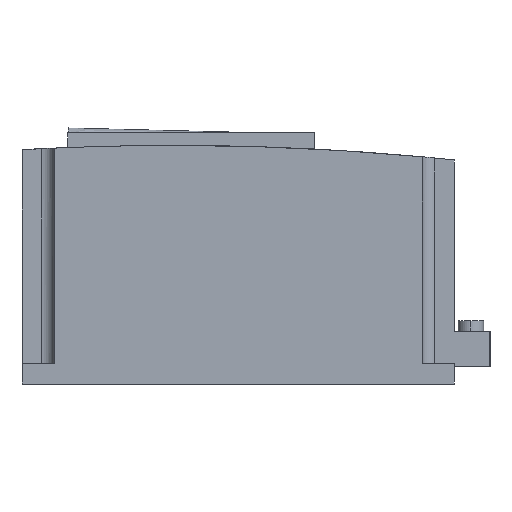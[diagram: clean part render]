
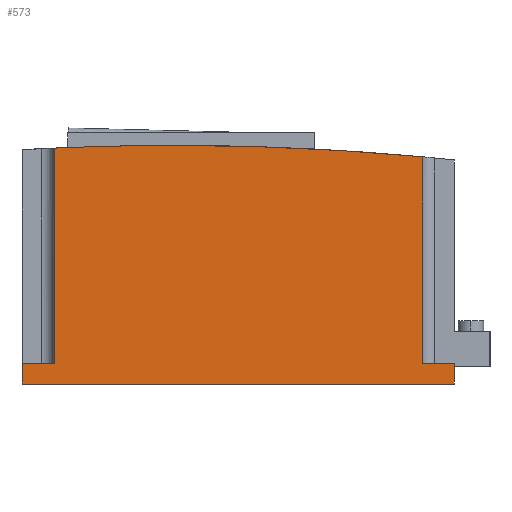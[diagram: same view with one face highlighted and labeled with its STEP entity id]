
A CAD part, left-side view. The second image highlights one B-rep face of the part: STEP entity #573.
In plain terms, the highlighted planar face has unit normal (-1, 0, 0).
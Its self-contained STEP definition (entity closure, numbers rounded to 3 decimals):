
#573=ADVANCED_FACE('',(#1078),#1079,.T.);
#1078=FACE_OUTER_BOUND('',#1412,.T.);
#1079=PLANE('',#1413);
#1412=EDGE_LOOP('',(#2035,#2036,#2037,#2038,#2039,#2040,#2041,#2042,#2043));
#1413=AXIS2_PLACEMENT_3D('',#2044,#2045,#2046);
#2035=ORIENTED_EDGE('',*,*,#2773,.T.);
#2036=ORIENTED_EDGE('',*,*,#2743,.T.);
#2037=ORIENTED_EDGE('',*,*,#2664,.T.);
#2038=ORIENTED_EDGE('',*,*,#2774,.F.);
#2039=ORIENTED_EDGE('',*,*,#2775,.T.);
#2040=ORIENTED_EDGE('',*,*,#2760,.F.);
#2041=ORIENTED_EDGE('',*,*,#2776,.F.);
#2042=ORIENTED_EDGE('',*,*,#2777,.T.);
#2043=ORIENTED_EDGE('',*,*,#2778,.T.);
#2044=CARTESIAN_POINT('',(-70.0,85.,3.0));
#2045=DIRECTION('',(-1.0,-0.0,0.0));
#2046=DIRECTION('',(0.0,-1.0,-0.0));
#2664=EDGE_CURVE('',#3104,#3122,#3124,.T.);
#2743=EDGE_CURVE('',#3256,#3104,#3257,.T.);
#2760=EDGE_CURVE('',#3284,#3286,#3287,.T.);
#2773=EDGE_CURVE('',#3307,#3256,#3308,.T.);
#2774=EDGE_CURVE('',#3309,#3122,#3310,.T.);
#2775=EDGE_CURVE('',#3309,#3286,#3311,.T.);
#2776=EDGE_CURVE('',#3312,#3284,#3313,.T.);
#2777=EDGE_CURVE('',#3312,#3314,#3315,.T.);
#2778=EDGE_CURVE('',#3314,#3307,#3316,.T.);
#3104=VERTEX_POINT('',#3437);
#3122=VERTEX_POINT('',#3476);
#3124=CIRCLE('',#3479,1057.107);
#3256=VERTEX_POINT('',#3700);
#3257=CIRCLE('',#3701,1057.107);
#3284=VERTEX_POINT('',#3756);
#3286=VERTEX_POINT('',#3759);
#3287=LINE('',#3760,#3761);
#3307=VERTEX_POINT('',#3806);
#3308=LINE('',#3807,#3808);
#3309=VERTEX_POINT('',#3809);
#3310=LINE('',#3810,#3811);
#3311=LINE('',#3812,#3813);
#3312=VERTEX_POINT('',#3814);
#3313=LINE('',#3815,#3816);
#3314=VERTEX_POINT('',#3817);
#3315=LINE('',#3818,#3819);
#3316=LINE('',#3820,#3821);
#3437=CARTESIAN_POINT('',(-70.,109.922,93.82));
#3476=CARTESIAN_POINT('',(-70.0,157.411,92.753));
#3479=AXIS2_PLACEMENT_3D('',#4040,#4041,#4042);
#3700=CARTESIAN_POINT('',(-70.0,12.589,89.33));
#3701=AXIS2_PLACEMENT_3D('',#4163,#4164,#4165);
#3756=CARTESIAN_POINT('',(-70.0,170.0,0.0));
#3759=CARTESIAN_POINT('',(-70.0,170.0,8.0));
#3760=CARTESIAN_POINT('',(-70.0,170.0,0.0));
#3761=VECTOR('',#4187,1.0);
#3806=CARTESIAN_POINT('',(-70.0,12.589,8.0));
#3807=CARTESIAN_POINT('',(-70.0,12.589,13.0));
#3808=VECTOR('',#4205,1.0);
#3809=CARTESIAN_POINT('',(-70.0,157.411,8.0));
#3810=CARTESIAN_POINT('',(-70.0,157.411,3.0));
#3811=VECTOR('',#4206,1.0);
#3812=CARTESIAN_POINT('',(-70.0,0.0,8.0));
#3813=VECTOR('',#4207,1.0);
#3814=CARTESIAN_POINT('',(-70.0,0.0,0.0));
#3815=CARTESIAN_POINT('',(-70.0,0.0,0.0));
#3816=VECTOR('',#4208,1.0);
#3817=CARTESIAN_POINT('',(-70.0,0.0,8.0));
#3818=CARTESIAN_POINT('',(-70.0,0.0,0.0));
#3819=VECTOR('',#4209,1.0);
#3820=CARTESIAN_POINT('',(-70.0,0.0,8.0));
#3821=VECTOR('',#4210,1.0);
#4040=CARTESIAN_POINT('',(-70.,109.922,-963.286));
#4041=DIRECTION('',(-1.0,0.0,0.0));
#4042=DIRECTION('',(0.0,0.0,1.0));
#4163=CARTESIAN_POINT('',(-70.,109.922,-963.286));
#4164=DIRECTION('',(-1.0,0.0,0.0));
#4165=DIRECTION('',(0.0,0.0,1.0));
#4187=DIRECTION('',(0.0,0.0,1.0));
#4205=DIRECTION('',(0.0,0.0,1.0));
#4206=DIRECTION('',(0.0,0.0,1.0));
#4207=DIRECTION('',(0.0,1.0,0.0));
#4208=DIRECTION('',(0.0,1.0,0.0));
#4209=DIRECTION('',(0.0,0.0,1.0));
#4210=DIRECTION('',(0.0,1.0,0.0));
